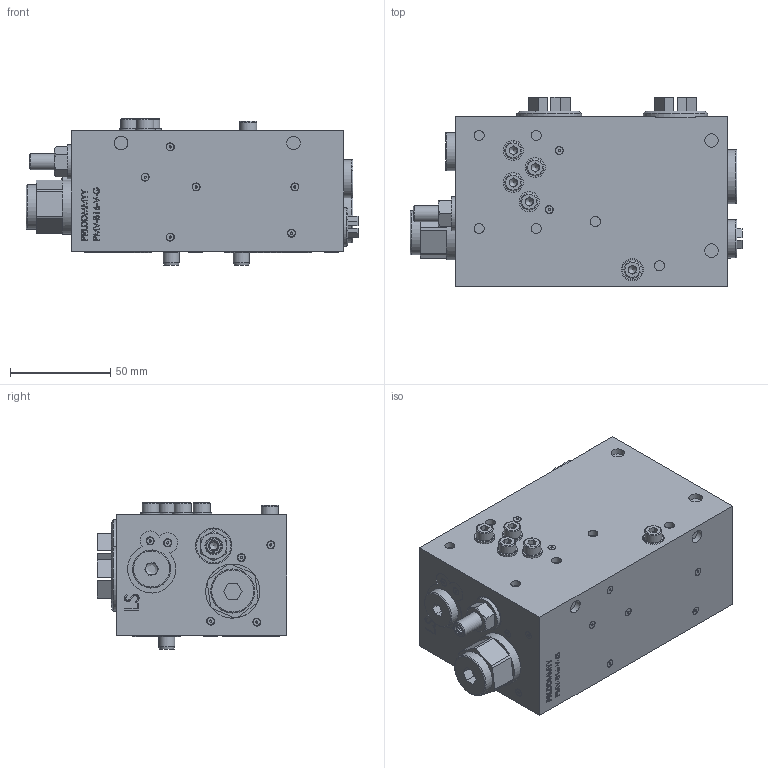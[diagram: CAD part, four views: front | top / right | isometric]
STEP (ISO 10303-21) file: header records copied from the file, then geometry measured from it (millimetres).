
FILE_DESCRIPTION (( 'STEP AP214' ), '1' );
FILE_NAME ('0301573.STEP', '2022-06-22T12:48:17', ( '' ), ( '' ), 'SwSTEP 2.0', 'SolidWorks 2020', '' );
FILE_SCHEMA (( 'AUTOMOTIVE_DESIGN' ));
Length unit declared in the file: millimetre
Products named in the file (18): 0072022_238.5405; 0301573; 0283782_001; 0288965_003; 0072022_238.2406; 0289301_002; 0287187_001; 0072126_221.5561; 0072022_238.3402; 0073842_153.2402; 0073837_049.2050; 0290158_005; 0166400_001; 0280258_001; 0289304_003; 0290158_007; 0074697_246.2108; 0290158_001
Assembly tree (51 placements, depth 3):
  0301573
    0289304_003
    0283782_001  x17
    0290158_001  x7
    0290158_007  x2
    0290158_005
    0287187_001
    0073842_153.2402
    0072022_238.5405
    0072022_238.2406  x2
    0073837_049.2050  x5
    0074697_246.2108  x5
    0289301_002
      0288965_003
      0072022_238.3402
    0072126_221.5561  x2
    0280258_001  x2
    0166400_001
Bounding box: 165.7 x 94.7 x 73 mm (x, y, z)
Volume: 739770.8 mm3; surface area: 91635.6 mm2
Topology: 76 solids, 76 shells, 1680 faces, 3509 edges, 2191 vertices
Faces by surface type: plane 812, cone 416, cylinder 289, bspline 147, torus 16
Full cylindrical faces by diameter (mm): 0.6 x17, 1.1 x17, 3.5 x17, 3.7 x1, 3.767 x17, 4 x25, 4.1 x1, 4.2 x4, 4.47 x7, 5 x11, 5.7 x5, 6 x1, 6.8 x11, 7 x1, 7.8 x7, 7.85 x10, 8 x5, 8.03 x7, 8.5 x5, 10 x5, 10.95 x1, 11.3 x2, 11.445 x3, 11.6 x2, 13.16 x1, 13.2 x2, 14.5 x1, 14.6 x1, 16 x1, 16.5 x2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
Entity records: 32539 total; most frequent: CARTESIAN_POINT 11211, DIRECTION 3760, ORIENTED_EDGE 3706, EDGE_CURVE 1853, VERTEX_POINT 1328, AXIS2_PLACEMENT_3D 1298, EDGE_LOOP 1291, VECTOR 1164
